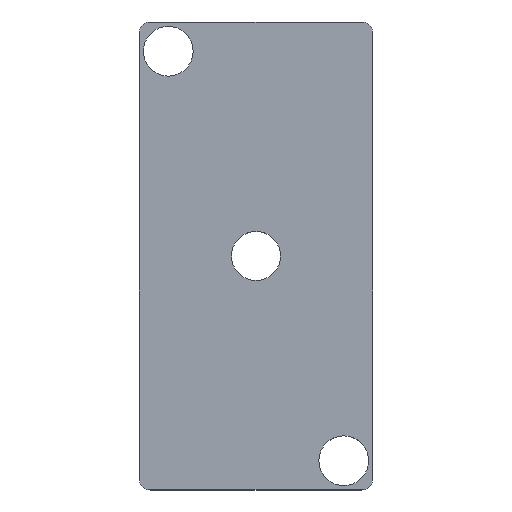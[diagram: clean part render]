
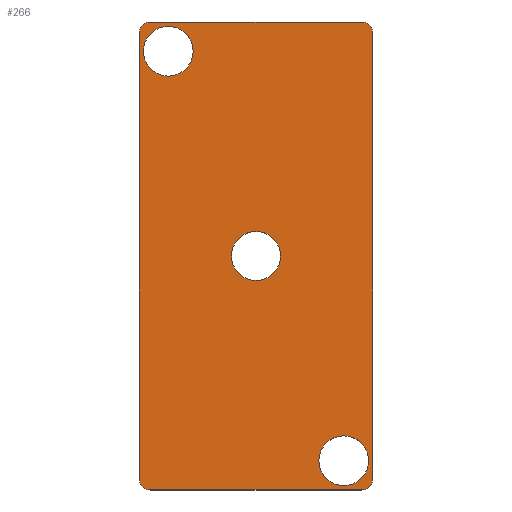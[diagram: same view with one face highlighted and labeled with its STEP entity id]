
A CAD part, top view. The second image highlights one B-rep face of the part: STEP entity #266.
In plain terms, the highlighted planar face has unit normal (0, 0, 1).
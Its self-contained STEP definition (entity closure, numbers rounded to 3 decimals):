
#18=FACE_BOUND('',#56,.T.);
#19=FACE_BOUND('',#57,.T.);
#20=FACE_BOUND('',#58,.T.);
#26=PLANE('',#316);
#39=FACE_OUTER_BOUND('',#55,.T.);
#55=EDGE_LOOP('',(#233,#234,#235,#236,#237,#238,#239,#240));
#56=EDGE_LOOP('',(#241,#242));
#57=EDGE_LOOP('',(#243,#244));
#58=EDGE_LOOP('',(#245,#246));
#63=LINE('',#413,#82);
#69=LINE('',#439,#88);
#72=LINE('',#447,#91);
#77=LINE('',#471,#96);
#82=VECTOR('',#331,10.);
#88=VECTOR('',#357,10.);
#91=VECTOR('',#366,10.);
#96=VECTOR('',#395,10.);
#97=CIRCLE('',#288,2.);
#105=CIRCLE('',#299,2.);
#106=CIRCLE('',#302,2.);
#107=CIRCLE('',#305,2.);
#108=CIRCLE('',#307,4.188);
#109=CIRCLE('',#308,4.188);
#110=CIRCLE('',#310,4.25);
#111=CIRCLE('',#311,4.25);
#112=CIRCLE('',#313,4.25);
#113=CIRCLE('',#314,4.25);
#114=VERTEX_POINT('',#400);
#115=VERTEX_POINT('',#401);
#119=VERTEX_POINT('',#411);
#128=VERTEX_POINT('',#433);
#129=VERTEX_POINT('',#437);
#130=VERTEX_POINT('',#441);
#131=VERTEX_POINT('',#445);
#132=VERTEX_POINT('',#449);
#133=VERTEX_POINT('',#453);
#134=VERTEX_POINT('',#454);
#135=VERTEX_POINT('',#459);
#136=VERTEX_POINT('',#460);
#137=VERTEX_POINT('',#465);
#138=VERTEX_POINT('',#466);
#139=EDGE_CURVE('',#114,#115,#97,.T.);
#145=EDGE_CURVE('',#119,#114,#63,.T.);
#155=EDGE_CURVE('',#128,#119,#105,.T.);
#158=EDGE_CURVE('',#129,#128,#69,.T.);
#159=EDGE_CURVE('',#130,#129,#106,.T.);
#162=EDGE_CURVE('',#131,#130,#72,.T.);
#163=EDGE_CURVE('',#132,#131,#107,.T.);
#165=EDGE_CURVE('',#133,#134,#108,.T.);
#166=EDGE_CURVE('',#134,#133,#109,.T.);
#168=EDGE_CURVE('',#135,#136,#110,.T.);
#169=EDGE_CURVE('',#136,#135,#111,.T.);
#171=EDGE_CURVE('',#137,#138,#112,.T.);
#172=EDGE_CURVE('',#138,#137,#113,.T.);
#174=EDGE_CURVE('',#115,#132,#77,.T.);
#233=ORIENTED_EDGE('',*,*,#139,.F.);
#234=ORIENTED_EDGE('',*,*,#145,.F.);
#235=ORIENTED_EDGE('',*,*,#155,.F.);
#236=ORIENTED_EDGE('',*,*,#158,.F.);
#237=ORIENTED_EDGE('',*,*,#159,.F.);
#238=ORIENTED_EDGE('',*,*,#162,.F.);
#239=ORIENTED_EDGE('',*,*,#163,.F.);
#240=ORIENTED_EDGE('',*,*,#174,.F.);
#241=ORIENTED_EDGE('',*,*,#165,.T.);
#242=ORIENTED_EDGE('',*,*,#166,.T.);
#243=ORIENTED_EDGE('',*,*,#168,.T.);
#244=ORIENTED_EDGE('',*,*,#169,.T.);
#245=ORIENTED_EDGE('',*,*,#171,.T.);
#246=ORIENTED_EDGE('',*,*,#172,.T.);
#266=ADVANCED_FACE('',(#39,#18,#19,#20),#26,.T.);
#288=AXIS2_PLACEMENT_3D('',#402,#321,#322);
#299=AXIS2_PLACEMENT_3D('',#434,#351,#352);
#302=AXIS2_PLACEMENT_3D('',#442,#360,#361);
#305=AXIS2_PLACEMENT_3D('',#450,#369,#370);
#307=AXIS2_PLACEMENT_3D('',#455,#374,#375);
#308=AXIS2_PLACEMENT_3D('',#456,#376,#377);
#310=AXIS2_PLACEMENT_3D('',#461,#381,#382);
#311=AXIS2_PLACEMENT_3D('',#462,#383,#384);
#313=AXIS2_PLACEMENT_3D('',#467,#388,#389);
#314=AXIS2_PLACEMENT_3D('',#468,#390,#391);
#316=AXIS2_PLACEMENT_3D('',#472,#396,#397);
#321=DIRECTION('center_axis',(0.,0.,-1.));
#322=DIRECTION('ref_axis',(-0.707,-0.707,0.));
#331=DIRECTION('',(-1.,0.,0.));
#351=DIRECTION('center_axis',(0.,0.,-1.));
#352=DIRECTION('ref_axis',(0.707,-0.707,0.));
#357=DIRECTION('',(0.,-1.,0.));
#360=DIRECTION('center_axis',(0.,0.,-1.));
#361=DIRECTION('ref_axis',(0.707,0.707,0.));
#366=DIRECTION('',(1.,0.,0.));
#369=DIRECTION('center_axis',(0.,0.,-1.));
#370=DIRECTION('ref_axis',(-0.707,0.707,0.));
#374=DIRECTION('center_axis',(0.,0.,-1.));
#375=DIRECTION('ref_axis',(1.,0.,0.));
#376=DIRECTION('center_axis',(0.,0.,-1.));
#377=DIRECTION('ref_axis',(1.,0.,0.));
#381=DIRECTION('center_axis',(0.,0.,-1.));
#382=DIRECTION('ref_axis',(1.,0.,0.));
#383=DIRECTION('center_axis',(0.,0.,-1.));
#384=DIRECTION('ref_axis',(1.,0.,0.));
#388=DIRECTION('center_axis',(0.,0.,-1.));
#389=DIRECTION('ref_axis',(1.,0.,0.));
#390=DIRECTION('center_axis',(0.,0.,-1.));
#391=DIRECTION('ref_axis',(1.,0.,0.));
#395=DIRECTION('',(0.,1.,0.));
#396=DIRECTION('center_axis',(0.,0.,1.));
#397=DIRECTION('ref_axis',(1.,0.,0.));
#400=CARTESIAN_POINT('',(-14.647,-56.916,8.));
#401=CARTESIAN_POINT('',(-16.647,-54.916,8.));
#402=CARTESIAN_POINT('Origin',(-14.647,-54.916,8.));
#411=CARTESIAN_POINT('',(21.353,-56.916,8.));
#413=CARTESIAN_POINT('',(23.353,-56.916,8.));
#433=CARTESIAN_POINT('',(23.353,-54.916,8.));
#434=CARTESIAN_POINT('Origin',(21.353,-54.916,8.));
#437=CARTESIAN_POINT('',(23.353,21.084,8.));
#439=CARTESIAN_POINT('',(23.353,23.084,8.));
#441=CARTESIAN_POINT('',(21.353,23.084,8.));
#442=CARTESIAN_POINT('Origin',(21.353,21.084,8.));
#445=CARTESIAN_POINT('',(-14.647,23.084,8.));
#447=CARTESIAN_POINT('',(-16.647,23.084,8.));
#449=CARTESIAN_POINT('',(-16.647,21.084,8.));
#450=CARTESIAN_POINT('Origin',(-14.647,21.084,8.));
#453=CARTESIAN_POINT('',(7.541,-16.916,8.));
#454=CARTESIAN_POINT('',(-0.835,-16.916,8.));
#455=CARTESIAN_POINT('Origin',(3.353,-16.916,8.));
#456=CARTESIAN_POINT('Origin',(3.353,-16.916,8.));
#459=CARTESIAN_POINT('',(22.603,-51.916,8.));
#460=CARTESIAN_POINT('',(14.103,-51.916,8.));
#461=CARTESIAN_POINT('Origin',(18.353,-51.916,8.));
#462=CARTESIAN_POINT('Origin',(18.353,-51.916,8.));
#465=CARTESIAN_POINT('',(-7.397,18.084,8.));
#466=CARTESIAN_POINT('',(-15.897,18.084,8.));
#467=CARTESIAN_POINT('Origin',(-11.647,18.084,8.));
#468=CARTESIAN_POINT('Origin',(-11.647,18.084,8.));
#471=CARTESIAN_POINT('',(-16.647,-56.916,8.));
#472=CARTESIAN_POINT('Origin',(3.353,-16.916,8.));
